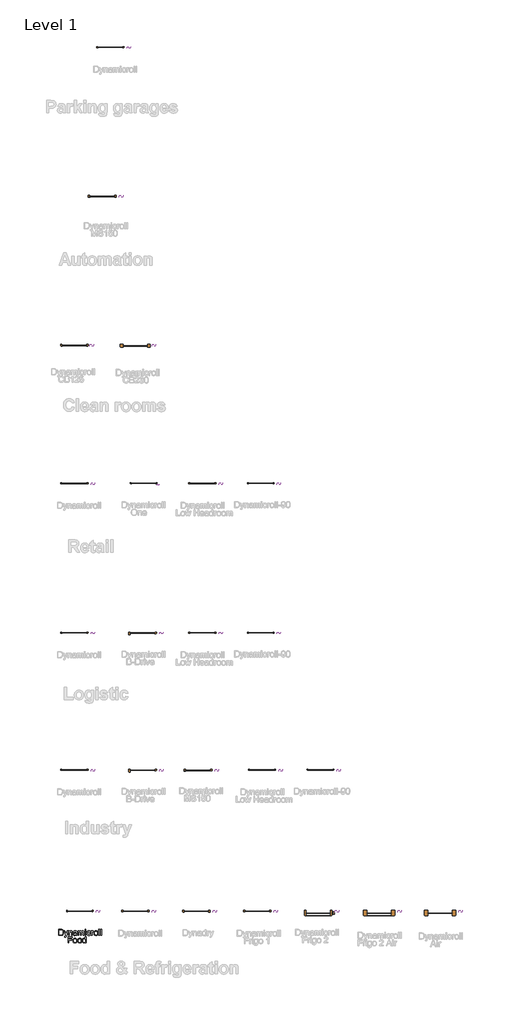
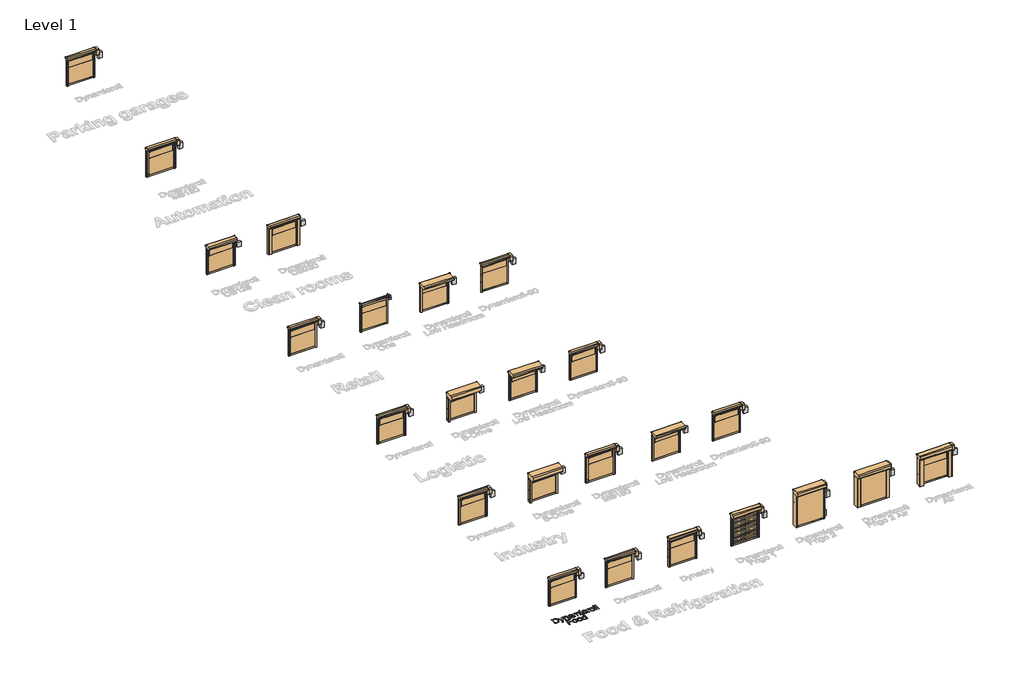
# One storey, part 1 of 17: 24 doors, 24 electric distribution boards, 1 proxy.
"""IFC4 building model written with IfcOpenShell, lengths in millimetres."""

from ifc_helpers import new_model, si_unit, origin, origin_with_axes, place, context, project, spatial, polyline, outline, extrude, transform, mapped, element, save
from components import door_93b81783, door_544569be, door_051ebcf6, door_978dc10a, door_dcf74658, door_a66aba2e, door_ffd00a84, door_aceed0af, door_23fff084, door_8e405e60, door_88b36e2c, door_59a10860, cb125_eadb58d3, cb230_7affb9d1, ee_wpb_control_panel_bmp_sh_control_panel_one_fab0d9c8, ee_wpb_control_panel_bmp_sh_control_panel_pvc_26d0edfe, ee_wpb_control_panel_bmp_sh_control_panel_powder_coated_2337cf2d

model = new_model("IFC4")

# Units and contexts
model_context = context("Model", 3, world=origin())
ifc_project = project(units=[si_unit("LENGTHUNIT", "METRE", prefix="MILLI")], contexts=[model_context])

# Site, building, storey
site = spatial("IfcSite", under=ifc_project)
building = spatial("IfcBuilding", under=site)
storey = spatial("IfcBuildingStorey", under=building, Name="Level 1", Elevation=0.0)

# Proxy
placement = place(None, origin())
element("IfcBuildingElementProxy", 1, Name="500mm", ObjectType="500mm", at=placement, inside=storey, context=model_context, shape_type="SweptSolid", body=[
    extrude(outline(polyline([(202.3822984, 7606.4708973), (202.3822984, 8108.7524481), (375.6547181, 8108.7524481), (427.4341089, 8106.9436949), (465.2952976, 8101.5174355), (505.3331214, 8087.5685765), (539.1169513, 8065.5876273), (557.7333131, 8047.6227232), (573.851143, 8027.3278998), (587.470441, 8004.7031571), (598.5912072, 7979.7484951), (613.3984575, 7923.7691182), (618.3342076, 7860.309474), (614.9926128, 7806.3994333), (604.9678284, 7758.9579843), (589.7007256, 7718.567607), (570.6321755, 7685.810781), (548.6818831, 7659.9517424), (524.7695535, 7640.2547272), (497.3163596, 7625.6467463), (464.7434746, 7615.0548106), (426.9895848, 7608.6168756), (383.9933766, 7606.4708973), (202.3822984, 7606.4708973)]), holes=[polyline([(265.1674922, 7669.2560912), (376.2678547, 7669.2560912), (422.2224473, 7671.5246968), (457.0792663, 7678.3305137), (483.382829, 7689.2750031), (503.6776524, 7703.9596261), (525.489989, 7731.1369085), (541.8760662, 7766.3156242), (552.1307769, 7809.6490576), (555.5490137, 7861.2904927), (553.8743842, 7897.741467), (548.8504957, 7929.7165438), (540.4773482, 7957.2157229), (528.7549417, 7980.2390044), (514.6336381, 7999.3075545), (499.063799, 8014.9425393), (482.0454247, 8027.1439588), (463.5785149, 8035.911813), (427.4647657, 8043.4533939), (374.5510721, 8045.9672542), (265.1674922, 8045.9672542), (265.1674922, 7669.2560912)])]), origin_with_axes(), (0.0, 0.0, 1.0), 5.0),
    extrude(outline(polyline([(696.8156999, 7465.2042112), (688.9675506, 7525.6594857), (720.8506569, 7520.1412558), (737.6199445, 7521.8733669), (750.6490985, 7527.0697), (760.7965102, 7535.3623734), (768.9205709, 7546.3835048), (786.0883974, 7592.6140089), (790.9934906, 7607.819798), (657.5749537, 7975.3339112), (723.7937129, 7975.3339112), (794.5496833, 7770.5462672), (819.1977769, 7688.6312096), (843.8458706, 7760.9813353), (916.5638783, 7975.3339112), (982.2921281, 7975.3339112), (853.9013118, 7597.6417295), (820.5466776, 7515.7266719), (803.4708216, 7489.5763934), (784.1263601, 7471.4582051), (761.6549015, 7460.8815978), (735.1980547, 7457.356062), (717.0185528, 7459.3180993), (696.8156999, 7465.2042112)])), origin_with_axes(), (0.0, 0.0, 1.0), 5.0),
    extrude(outline(polyline([(1034.2861168, 7606.4708973), (1034.2861168, 7975.3339112), (1097.0713106, 7975.3339112), (1097.0713106, 7923.8304318), (1118.8836473, 7949.7967693), (1145.079911, 7968.3441533), (1175.6601018, 7979.4725836), (1210.6242198, 7983.1820604), (1241.5722926, 7980.1930192), (1269.9145347, 7971.2258956), (1293.5509529, 7957.3996639), (1310.3815542, 7939.8332986), (1321.8012244, 7918.572785), (1329.2048496, 7893.6641082), (1332.5157875, 7832.963579), (1332.5157875, 7606.4708973), (1269.7305937, 7606.4708973), (1269.7305937, 7824.5022932), (1267.9218406, 7856.9678792), (1262.4955811, 7880.0524744), (1252.4861252, 7896.5918358), (1236.9277825, 7909.4217204), (1216.9855126, 7917.65308), (1193.8242754, 7920.3968666), (1174.7595574, 7918.8563607), (1157.0514043, 7914.2348431), (1140.699816, 7906.5323139), (1125.7047926, 7895.7487729), (1113.1776442, 7880.6579469), (1104.2296811, 7860.0335625), (1098.8609032, 7833.8756198), (1097.0713106, 7802.1841188), (1097.0713106, 7606.4708973), (1034.2861168, 7606.4708973)])), origin_with_axes(), (0.0, 0.0, 1.0), 5.0),
    extrude(outline(polyline([(1654.289906, 7653.5597927), (1624.292195, 7627.8387099), (1593.4054358, 7611.0081086), (1560.9245213, 7601.7190882), (1526.1443443, 7598.6227481), (1498.1891448, 7600.4851507), (1473.6751748, 7606.0723585), (1452.6024342, 7615.3843715), (1434.9709232, 7628.4211897), (1421.0488889, 7644.3550786), (1411.1045788, 7662.3583038), (1405.1379926, 7682.4308651), (1403.1491306, 7704.5727627), (1406.1535002, 7730.6004139), (1415.1666091, 7754.2368321), (1429.0694829, 7774.4703418), (1446.743147, 7790.2892676), (1467.5131514, 7802.2454324), (1490.7050455, 7810.8906593), (1545.0289534, 7820.3329639), (1609.2243616, 7830.2657777), (1653.922024, 7841.9153743), (1654.289906, 7855.8948901), (1649.9672925, 7883.9152354), (1636.9994522, 7902.2480215), (1623.924313, 7910.1881412), (1607.9980883, 7915.8596553), (1567.5923825, 7920.3968666), (1530.1910463, 7917.3771685), (1504.0714246, 7908.3180744), (1486.2598047, 7891.5641152), (1473.7824737, 7865.4598219), (1410.9972798, 7873.3079712), (1421.8957839, 7907.6436241), (1438.1592338, 7934.621637), (1461.3051427, 7955.2536856), (1492.8510238, 7970.5514452), (1531.432648, 7980.0244066), (1575.6857863, 7983.1820604), (1618.1301715, 7980.3922886), (1651.7760457, 7972.0229732), (1677.1445749, 7959.4383433), (1694.7569255, 7944.0026279), (1706.4371788, 7924.9187494), (1714.0094165, 7901.3896301), (1717.0750998, 7846.4525855), (1717.0750998, 7768.3389752), (1720.2634105, 7659.2619636), (1724.9845627, 7632.2992791), (1732.7713983, 7606.4708973), (1669.9862044, 7606.4708973), (1659.9307632, 7628.2985624), (1654.289906, 7653.5597927)]), holes=[polyline([(1654.289906, 7779.1301804), (1612.1061039, 7768.6762004), (1552.99973, 7759.8776893), (1498.9823904, 7749.6996208), (1484.9262325, 7742.7405197), (1474.5182377, 7733.144931), (1468.0803028, 7721.6486187), (1465.9343245, 7708.9873467), (1470.6094915, 7690.3173354), (1484.6349925, 7675.0195758), (1507.7042593, 7664.8108504), (1539.5107235, 7661.407942), (1573.2332397, 7665.163404), (1603.0316813, 7676.4297901), (1627.1892657, 7693.0304651), (1643.9892101, 7712.7887939), (1651.4388205, 7733.144931), (1653.922024, 7761.3492173), (1654.289906, 7779.1301804)])]), origin_with_axes(), (0.0, 0.0, 1.0), 5.0),
    extrude(outline(polyline([(1803.4047414, 7606.4708973), (1803.4047414, 7975.3339112), (1866.1899352, 7975.3339112), (1866.1899352, 7914.633382), (1885.0745443, 7942.5157715), (1909.354756, 7964.358765), (1938.2028358, 7978.4762365), (1970.7910492, 7983.1820604), (2005.7091819, 7978.384266), (2033.6988703, 7963.990883), (2054.6068304, 7940.952273), (2068.2797779, 7910.218798), (2091.1651037, 7942.1402253), (2117.2693969, 7964.9412448), (2146.5926576, 7978.6218565), (2179.1348858, 7983.1820604), (2204.2696567, 7981.2851689), (2226.3310801, 7975.5944943), (2245.319156, 7966.1100366), (2261.2338844, 7952.8317958), (2273.8146822, 7935.6064878), (2282.8009663, 7914.2808284), (2288.1927368, 7888.8548176), (2289.9899937, 7859.3284554), (2289.9899937, 7606.4708973), (2227.2047998, 7606.4708973), (2227.2047998, 7832.3504424), (2225.7486002, 7863.6663972), (2221.3800016, 7884.7736267), (2213.1946272, 7899.2283234), (2200.2881005, 7910.58668), (2183.6874255, 7917.9443199), (2164.419606, 7920.3968666), (2146.6271466, 7918.8257039), (2130.4058498, 7914.1122158), (2115.7557158, 7906.2564024), (2102.6767444, 7895.2582636), (2091.9200282, 7880.7959026), (2084.2366594, 7862.5474228), (2079.6266382, 7840.5128241), (2078.0899644, 7814.6921066), (2078.0899644, 7606.4708973), (2015.3047706, 7606.4708973), (2015.3047706, 7839.3402003), (2011.6719359, 7874.8408128), (2000.7734318, 7900.1633568), (1992.3466348, 7909.0155173), (1981.5975828, 7915.3384891), (1953.1327134, 7920.3968666), (1928.9444722, 7917.0246149), (1906.6569547, 7906.9078601), (1888.2628549, 7890.2918566), (1875.7548671, 7867.4218593), (1868.5811682, 7835.6920372), (1866.1899352, 7792.4965596), (1866.1899352, 7606.4708973), (1803.4047414, 7606.4708973)])), origin_with_axes(), (0.0, 0.0, 1.0), 5.0),
    extrude(outline(polyline([(2384.1677844, 8045.9672542), (2384.1677844, 8108.7524481), (2446.9529783, 8108.7524481), (2446.9529783, 8045.9672542), (2384.1677844, 8045.9672542)])), origin_with_axes(), (0.0, 0.0, 1.0), 5.0),
    extrude(outline(polyline([(2384.1677844, 7606.4708973), (2384.1677844, 7975.3339112), (2446.9529783, 7975.3339112), (2446.9529783, 7606.4708973), (2384.1677844, 7606.4708973)])), origin_with_axes(), (0.0, 0.0, 1.0), 5.0),
    extrude(outline(polyline([(2776.5752459, 7739.8894343), (2839.3604398, 7732.041285), (2832.5316302, 7702.4152881), (2821.8553882, 7676.1998638), (2807.3317136, 7653.3950122), (2788.9606064, 7634.0007333), (2767.5161518, 7618.5228648), (2743.7724347, 7607.4672444), (2717.7294551, 7600.8338722), (2689.3872131, 7598.6227481), (2654.1740084, 7601.7075919), (2622.6013025, 7610.9621234), (2594.6690956, 7626.3863424), (2570.3773876, 7647.9802491), (2550.7148614, 7675.3376404), (2536.6701998, 7708.0523133), (2528.2434029, 7746.1242677), (2525.4344706, 7789.5535036), (2530.2322649, 7845.4255816), (2544.625648, 7893.8480492), (2555.4781668, 7914.7981624), (2568.844546, 7932.9508396), (2584.7247855, 7948.3060808), (2603.1188852, 7960.863886), (2644.1223993, 7977.6025168), (2688.5288218, 7983.1820604), (2716.3843866, 7981.2660083), (2741.5804711, 7975.5178522), (2764.1170755, 7965.9375919), (2783.9941995, 7952.5252275), (2800.8746181, 7935.5873273), (2814.4211062, 7915.4304596), (2824.6336637, 7892.0546245), (2831.5122906, 7865.4598219), (2768.7270967, 7857.6116727), (2757.3380833, 7885.0035529), (2739.6031054, 7904.6392544), (2716.5031818, 7916.4574635), (2689.0193311, 7920.3968666), (2667.6860075, 7918.4578219), (2648.4450127, 7912.6406878), (2631.2963468, 7902.9454644), (2616.2400097, 7889.3721516), (2603.9811086, 7871.6065169), (2595.2247507, 7849.3343278), (2589.970936, 7822.5555843), (2588.2196644, 7791.2702863), (2589.9326149, 7759.5136394), (2595.0714666, 7732.4244954), (2603.6362193, 7710.0028543), (2615.626873, 7692.2487159), (2630.384306, 7678.7558773), (2647.2493962, 7669.1181354), (2666.2221437, 7663.3354903), (2687.3025484, 7661.407942), (2719.8141198, 7666.2210647), (2746.470236, 7680.660433), (2757.2499449, 7691.5819298), (2765.8606828, 7705.0939289), (2776.5752459, 7739.8894343)])), origin_with_axes(), (0.0, 0.0, 1.0), 5.0),
    extrude(outline(polyline([(2894.2974844, 7606.4708973), (2894.2974844, 7975.3339112), (2949.234529, 7975.3339112), (2949.234529, 7920.7647486), (2969.5293524, 7952.4026001), (2988.2300205, 7971.0419546), (3006.9920023, 7980.1470339), (3027.4707666, 7983.1820604), (3058.7407362, 7978.3382808), (3090.5012152, 7963.806942), (3069.5319414, 7907.5209967), (3047.4590217, 7917.1778991), (3025.386102, 7920.3968666), (3006.6394487, 7917.3005264), (2989.8854895, 7908.0115061), (2976.3504977, 7893.2349126), (2967.2607468, 7873.6758532), (2959.6271954, 7838.6044363), (2957.0826782, 7800.3447088), (2957.0826782, 7606.4708973), (2894.2974844, 7606.4708973)])), origin_with_axes(), (0.0, 0.0, 1.0), 5.0),
    extrude(outline(polyline([(3114.0456628, 7790.9024043), (3117.4409071, 7838.6734142), (3127.6266398, 7879.8378766), (3144.6028611, 7914.3957915), (3168.3695708, 7942.3471589), (3192.2972289, 7960.2124283), (3218.7080905, 7972.973335), (3247.6021555, 7980.6298791), (3278.979424, 7983.1820604), (3313.6178131, 7980.074224), (3344.9376001, 7970.7507146), (3372.9387848, 7955.2115325), (3397.6213675, 7933.4566774), (3417.7667388, 7906.2219134), (3432.1562898, 7874.2430046), (3440.7900203, 7837.5199508), (3443.6679305, 7796.0527522), (3438.5788963, 7732.6237649), (3432.2176034, 7706.5884495), (3423.3117935, 7684.339253), (3411.9725974, 7665.1212508), (3398.3111462, 7648.1795185), (3382.3274399, 7633.5140561), (3364.0214786, 7621.1248635), (3323.293876, 7604.248277), (3278.979424, 7598.6227481), (3243.8351972, 7601.7190882), (3212.2241703, 7611.0081086), (3184.1463434, 7626.4898092), (3159.6017166, 7648.1641901), (3139.6709431, 7675.6633693), (3125.4346763, 7708.6194647), (3116.8929162, 7747.0324763), (3114.0456628, 7790.9024043)]), holes=[polyline([(3176.8308567, 7791.0250316), (3178.647274, 7760.5713002), (3184.0965261, 7734.2025918), (3193.1786129, 7711.9189063), (3205.8935343, 7693.7202439), (3221.3599065, 7679.5836118), (3238.6963455, 7669.4860174), (3257.9028514, 7663.4274608), (3278.979424, 7661.407942), (3299.9486977, 7663.4389571), (3319.0785615, 7669.5320027), (3336.3690153, 7679.6870786), (3351.8200591, 7693.9041849), (3364.5349805, 7712.2829562), (3373.6170673, 7734.9230273), (3379.0663193, 7761.8243982), (3380.8827367, 7792.9870689), (3379.054823, 7822.4751101), (3373.571082, 7848.1540398), (3364.4315137, 7870.0238579), (3351.6361181, 7888.0845646), (3336.1275927, 7902.2211967), (3318.8486352, 7912.3187911), (3299.7992457, 7918.3773477), (3278.979424, 7920.3968666), (3257.9028514, 7918.3850119), (3238.6963455, 7912.3494479), (3221.3599065, 7902.2901746), (3205.8935343, 7888.207192), (3193.1786129, 7870.062179), (3184.0965261, 7847.8168146), (3178.647274, 7821.4710988), (3176.8308567, 7791.0250316)])]), origin_with_axes(), (0.0, 0.0, 1.0), 5.0),
    extrude(outline(polyline([(3514.3012736, 7606.4708973), (3514.3012736, 8108.7524481), (3577.0864674, 8108.7524481), (3577.0864674, 7606.4708973), (3514.3012736, 7606.4708973)])), origin_with_axes(), (0.0, 0.0, 1.0), 5.0),
    extrude(outline(polyline([(3671.2642582, 7606.4708973), (3671.2642582, 8108.7524481), (3734.0494521, 8108.7524481), (3734.0494521, 7606.4708973), (3671.2642582, 7606.4708973)])), origin_with_axes(), (0.0, 0.0, 1.0), 5.0),
    extrude(outline(polyline([(987.1972214, 6996.5968081), (987.1972214, 7498.8783589), (1324.6676383, 7498.8783589), (1324.6676383, 7436.093165), (1049.9824152, 7436.093165), (1049.9824152, 7286.9783296), (1285.4268922, 7286.9783296), (1285.4268922, 7224.1931358), (1049.9824152, 7224.1931358), (1049.9824152, 6996.5968081), (987.1972214, 6996.5968081)])), origin_with_axes(), (0.0, 0.0, 1.0), 5.0),
    extrude(outline(polyline([(1387.4528322, 7181.028315), (1390.8480764, 7228.7993249), (1401.0338091, 7269.9637874), (1418.0100304, 7304.5217023), (1441.7767401, 7332.4730697), (1465.7043982, 7350.3383391), (1492.1152598, 7363.0992458), (1521.0093248, 7370.7557898), (1552.3865933, 7373.3079712), (1587.0249824, 7370.2001347), (1618.3447694, 7360.8766254), (1646.3459542, 7345.3374432), (1671.0285368, 7323.5825882), (1691.1739081, 7296.3478242), (1705.5634591, 7264.3689154), (1714.1971896, 7227.6458616), (1717.0750998, 7186.178663), (1711.9860656, 7122.7496756), (1705.6247727, 7096.7143603), (1696.7189628, 7074.4651638), (1685.3797667, 7055.2471616), (1671.7183155, 7038.3054293), (1655.7346092, 7023.6399669), (1637.4286479, 7011.2507743), (1596.7010453, 6994.3741877), (1552.3865933, 6988.7486589), (1517.2423665, 6991.844999), (1485.6313396, 7001.1340194), (1457.5535128, 7016.61572), (1433.0088859, 7038.2901009), (1413.0781124, 7065.78928), (1398.8418456, 7098.7453754), (1390.3000855, 7137.1583871), (1387.4528322, 7181.028315)]), holes=[polyline([(1450.238026, 7181.1509424), (1452.0544433, 7150.6972109), (1457.5036954, 7124.3285025), (1466.5857822, 7102.0448171), (1479.3007036, 7083.8461546), (1494.7670758, 7069.7095226), (1512.1035148, 7059.6119282), (1531.3100207, 7053.5533716), (1552.3865933, 7051.5338527), (1573.355867, 7053.5648679), (1592.4857308, 7059.6579135), (1609.7761846, 7069.8129894), (1625.2272284, 7084.0300956), (1637.9421498, 7102.408867), (1647.0242366, 7125.0489381), (1652.4734886, 7151.950309), (1654.289906, 7183.1129797), (1652.4619923, 7212.6010208), (1646.9782513, 7238.2799505), (1637.838683, 7260.1497687), (1625.0432874, 7278.2104754), (1609.534762, 7292.3471075), (1592.2558045, 7302.4447019), (1573.206415, 7308.5032585), (1552.3865933, 7310.5227773), (1531.3100207, 7308.5109227), (1512.1035148, 7302.4753587), (1494.7670758, 7292.4160854), (1479.3007036, 7278.3331028), (1466.5857822, 7260.1880898), (1457.5036954, 7237.9427254), (1452.0544433, 7211.5970096), (1450.238026, 7181.1509424)])]), origin_with_axes(), (0.0, 0.0, 1.0), 5.0),
    extrude(outline(polyline([(1772.0121444, 7181.028315), (1775.4073887, 7228.7993249), (1785.5931214, 7269.9637874), (1802.5693427, 7304.5217023), (1826.3360524, 7332.4730697), (1850.2637105, 7350.3383391), (1876.6745721, 7363.0992458), (1905.5686371, 7370.7557898), (1936.9459056, 7373.3079712), (1971.5842947, 7370.2001347), (2002.9040817, 7360.8766254), (2030.9052664, 7345.3374432), (2055.5878491, 7323.5825882), (2075.7332204, 7296.3478242), (2090.1227714, 7264.3689154), (2098.7565019, 7227.6458616), (2101.6344121, 7186.178663), (2096.5453779, 7122.7496756), (2090.184085, 7096.7143603), (2081.2782751, 7074.4651638), (2069.939079, 7055.2471616), (2056.2776278, 7038.3054293), (2040.2939215, 7023.6399669), (2021.9879602, 7011.2507743), (1981.2603576, 6994.3741877), (1936.9459056, 6988.7486589), (1901.8016788, 6991.844999), (1870.1906519, 7001.1340194), (1842.112825, 7016.61572), (1817.5681982, 7038.2901009), (1797.6374247, 7065.78928), (1783.4011579, 7098.7453754), (1774.8593978, 7137.1583871), (1772.0121444, 7181.028315)]), holes=[polyline([(1834.7973383, 7181.1509424), (1836.6137556, 7150.6972109), (1842.0630077, 7124.3285025), (1851.1450944, 7102.0448171), (1863.8600159, 7083.8461546), (1879.3263881, 7069.7095226), (1896.6628271, 7059.6119282), (1915.869333, 7053.5533716), (1936.9459056, 7051.5338527), (1957.9151793, 7053.5648679), (1977.0450431, 7059.6579135), (1994.3354969, 7069.8129894), (2009.7865407, 7084.0300956), (2022.5014621, 7102.408867), (2031.5835489, 7125.0489381), (2037.0328009, 7151.950309), (2038.8492183, 7183.1129797), (2037.0213046, 7212.6010208), (2031.5375636, 7238.2799505), (2022.3979953, 7260.1497687), (2009.6025997, 7278.2104754), (1994.0940743, 7292.3471075), (1976.8151168, 7302.4447019), (1957.7657273, 7308.5032585), (1936.9459056, 7310.5227773), (1915.869333, 7308.5109227), (1896.6628271, 7302.4753587), (1879.3263881, 7292.4160854), (1863.8600159, 7278.3331028), (1851.1450944, 7260.1880898), (1842.0630077, 7237.9427254), (1836.6137556, 7211.5970096), (1834.7973383, 7181.1509424)])]), origin_with_axes(), (0.0, 0.0, 1.0), 5.0),
    extrude(outline(polyline([(2399.8640829, 6996.5968081), (2399.8640829, 7055.8258093), (2381.0791085, 7026.479556), (2358.3240743, 7005.5179465), (2331.5989801, 6992.9409808), (2300.9038262, 6988.7486589), (2260.3141794, 6994.8187118), (2223.1580979, 7013.0288706), (2191.7041873, 7042.1068766), (2168.2210532, 7080.7804713), (2153.5977439, 7127.4861563), (2148.7233075, 7180.660433), (2153.2145335, 7233.1755878), (2166.6882116, 7280.6017084), (2176.7896381, 7301.7319305), (2189.1290133, 7320.2409934), (2203.7063374, 7336.128897), (2220.5216102, 7349.3956415), (2258.4900978, 7367.3298888), (2300.6585715, 7373.3079712), (2331.3767181, 7369.031343), (2358.5386721, 7356.2014584), (2381.5619536, 7336.5351001), (2399.8640829, 7311.7490507), (2399.8640829, 7498.8783589), (2462.6492767, 7498.8783589), (2462.6492767, 6996.5968081), (2399.8640829, 6996.5968081)]), holes=[polyline([(2211.5085013, 7180.9056877), (2213.2789334, 7150.4596205), (2218.5902298, 7124.1139047), (2227.4423903, 7101.8685403), (2239.835415, 7083.7235273), (2254.6350011, 7069.6405447), (2270.7068457, 7059.5812714), (2288.050949, 7053.5457074), (2306.6673108, 7051.5338527), (2325.371811, 7053.4537369), (2342.6124474, 7059.2133894), (2358.38922, 7068.8128102), (2372.7021289, 7082.2519993), (2384.5854838, 7099.6382557), (2393.0735944, 7121.0788782), (2398.1664608, 7146.5738669), (2399.8640829, 7176.1232218), (2398.1358039, 7208.51983), (2392.9509671, 7236.3025848), (2384.3095723, 7259.4714863), (2372.2116196, 7278.0265344), (2357.5844782, 7292.2436407), (2341.3555172, 7302.3987166), (2323.5247368, 7308.4917622), (2304.0921368, 7310.5227773), (2285.107893, 7308.5722363), (2267.7637898, 7302.7206134), (2252.0598271, 7292.9679084), (2237.996005, 7279.3141214), (2226.4077222, 7261.4603483), (2218.1303773, 7239.107685), (2213.1639703, 7212.2561315), (2211.5085013, 7180.9056877)])]), origin_with_axes(), (0.0, 0.0, 1.0), 5.0),
])

# Doors
door_shape = door_93b81783(model_context)
element("IfcDoor", 2, ObjectType="DO_WPB_Dynamicroll_BMP : Dynamicroll", at=placement, inside=storey, context=model_context, shape_type="MappedRepresentation", body=[
    mapped(door_shape, transform((6497.2684086, 9654.9840976, 0.0), x_axis=(1.0, 0.0, 0.0), y_axis=(0.0, 1.0, 0.0), z_axis=(0.0, 0.0, 1.0))),
])
element("IfcDoor", 3, ObjectType="DO_WPB_Dynamicroll_BMP : Dynamicroll", at=placement, inside=storey, context=model_context, shape_type="MappedRepresentation", body=[
    mapped(door_shape, transform((1488.8652486, 32462.1380074, 0.0), x_axis=(1.0, 0.0, 0.0), y_axis=(0.0, 1.0, 0.0), z_axis=(0.0, 0.0, 1.0))),
])
element("IfcDoor", 4, ObjectType="DO_WPB_Dynamicroll_BMP : Dynamicroll", at=placement, inside=storey, context=model_context, shape_type="MappedRepresentation", body=[
    mapped(door_shape, transform((1488.8652486, 21224.4832479, 0.0), x_axis=(1.0, 0.0, 0.0), y_axis=(0.0, 1.0, 0.0), z_axis=(0.0, 0.0, 1.0))),
])
element("IfcDoor", 5, ObjectType="DO_WPB_Dynamicroll_BMP : Dynamicroll", at=placement, inside=storey, context=model_context, shape_type="MappedRepresentation", body=[
    mapped(door_shape, transform((1488.8652486, 44698.8509751, 0.0), x_axis=(1.0, 0.0, 0.0), y_axis=(0.0, 1.0, 0.0), z_axis=(0.0, 0.0, 1.0))),
])
element("IfcDoor", 6, ObjectType="DO_WPB_Dynamicroll_BMP : Dynamicroll", at=placement, inside=storey, context=model_context, shape_type="MappedRepresentation", body=[
    mapped(door_shape, transform((4445.6536388, 80429.8524972, 0.0), x_axis=(1.0, 0.0, 0.0), y_axis=(0.0, 1.0, 0.0), z_axis=(0.0, 0.0, 1.0))),
])
door_2_shape = door_544569be(model_context)
element("IfcDoor", 7, ObjectType="DO_WPB_Dynamicroll_BMP : Dynamicroll-90", at=placement, inside=storey, context=model_context, shape_type="MappedRepresentation", body=[
    mapped(door_2_shape, transform((16781.7584674, 32462.1380074, 0.0), x_axis=(1.0, 0.0, 0.0), y_axis=(0.0, 1.0, 0.0), z_axis=(0.0, 0.0, 1.0))),
])
element("IfcDoor", 8, ObjectType="DO_WPB_Dynamicroll_BMP : Dynamicroll-90", at=placement, inside=storey, context=model_context, shape_type="MappedRepresentation", body=[
    mapped(door_2_shape, transform((21681.7584674, 21224.4832479, 0.0), x_axis=(1.0, 0.0, 0.0), y_axis=(0.0, 1.0, 0.0), z_axis=(0.0, 0.0, 1.0))),
])
element("IfcDoor", 9, ObjectType="DO_WPB_Dynamicroll_BMP : Dynamicroll-90", at=placement, inside=storey, context=model_context, shape_type="MappedRepresentation", body=[
    mapped(door_2_shape, transform((16781.7584674, 44698.8509751, 0.0), x_axis=(1.0, 0.0, 0.0), y_axis=(0.0, 1.0, 0.0), z_axis=(0.0, 0.0, 1.0))),
])
door_3_shape = door_051ebcf6(model_context)
element("IfcDoor", 10, ObjectType="DO_WPB_Dynamicroll_BMP : Dynamicroll MS150", at=placement, inside=storey, context=model_context, shape_type="MappedRepresentation", body=[
    mapped(door_3_shape, transform((11635.9345844, 21224.4832479, 0.0), x_axis=(1.0, 0.0, 0.0), y_axis=(0.0, 1.0, 0.0), z_axis=(0.0, 0.0, 1.0))),
])
element("IfcDoor", 11, ObjectType="DO_WPB_Dynamicroll_BMP : Dynamicroll MS150", at=placement, inside=storey, context=model_context, shape_type="MappedRepresentation", body=[
    mapped(door_3_shape, transform((3788.8652486, 68233.2125546, 0.0), x_axis=(1.0, 0.0, 0.0), y_axis=(0.0, 1.0, 0.0), z_axis=(0.0, 0.0, 1.0))),
])
door_4_shape = door_978dc10a(model_context)
element("IfcDoor", 12, ObjectType="DO_WPB_Dynamicroll_BMP : Dynamicroll Food Inox", at=placement, inside=storey, context=model_context, shape_type="MappedRepresentation", body=[
    mapped(door_4_shape, transform((1948.7786866, 9654.9840976, 0.0), x_axis=(1.0, 0.0, 0.0), y_axis=(0.0, 1.0, 0.0), z_axis=(0.0, 0.0, 1.0))),
])
door_5_shape = door_dcf74658(model_context)
element("IfcDoor", 13, ObjectType="DO_WPB_Dynadry_BMP : Dynadry", at=placement, inside=storey, context=model_context, shape_type="MappedRepresentation", body=[
    mapped(door_5_shape, transform((11497.2684086, 9654.9840976, 0.0), x_axis=(1.0, 0.0, 0.0), y_axis=(0.0, 1.0, 0.0), z_axis=(0.0, 0.0, 1.0))),
])
door_6_shape = door_a66aba2e(model_context)
element("IfcDoor", 14, ObjectType="DO_WPB_Dynamicroll Frigo_Air_BMP : Dynamicroll Frigo1", at=placement, inside=storey, context=model_context, shape_type="MappedRepresentation", body=[
    mapped(door_6_shape, transform((16497.2684086, 9654.9840976, 0.0), x_axis=(1.0, 0.0, 0.0), y_axis=(0.0, 1.0, 0.0), z_axis=(0.0, 0.0, 1.0))),
])
door_7_shape = door_ffd00a84(model_context)
element("IfcDoor", 15, ObjectType="DO_WPB_Dynamicroll Frigo_Air_BMP : Dynamicroll Frigo2", at=placement, inside=storey, context=model_context, shape_type="MappedRepresentation", body=[
    mapped(door_7_shape, transform((21497.2684086, 9654.9840976, 0.0), x_axis=(1.0, 0.0, 0.0), y_axis=(0.0, 1.0, 0.0), z_axis=(0.0, 0.0, 1.0))),
])
door_8_shape = door_aceed0af(model_context)
element("IfcDoor", 16, ObjectType="DO_WPB_Dynamicroll Frigo_Air_BMP : Dynamicroll Frigo2 Air", at=placement, inside=storey, context=model_context, shape_type="MappedRepresentation", body=[
    mapped(door_8_shape, transform((26497.2684086, 9654.9840976, 0.0), x_axis=(1.0, 0.0, 0.0), y_axis=(0.0, 1.0, 0.0), z_axis=(0.0, 0.0, 1.0))),
])
door_9_shape = door_23fff084(model_context)
element("IfcDoor", 17, ObjectType="DO_WPB_Dynamicroll Frigo_Air_BMP : Dynamicroll Air", at=placement, inside=storey, context=model_context, shape_type="MappedRepresentation", body=[
    mapped(door_9_shape, transform((31497.2684086, 9654.9840976, 0.0), x_axis=(1.0, 0.0, 0.0), y_axis=(0.0, 1.0, 0.0), z_axis=(0.0, 0.0, 1.0))),
])
door_10_shape = door_8e405e60(model_context)
element("IfcDoor", 18, ObjectType="DO_WPB_Dynamicroll_BMP : Dynamicroll B-Drive", at=placement, inside=storey, context=model_context, shape_type="MappedRepresentation", body=[
    mapped(door_10_shape, transform((7088.8652486, 32462.1380074, 0.0), x_axis=(1.0, 0.0, 0.0), y_axis=(0.0, 1.0, 0.0), z_axis=(0.0, 0.0, 1.0))),
])
element("IfcDoor", 19, ObjectType="DO_WPB_Dynamicroll_BMP : Dynamicroll B-Drive", at=placement, inside=storey, context=model_context, shape_type="MappedRepresentation", body=[
    mapped(door_10_shape, transform((7088.8652486, 21224.4832479, 0.0), x_axis=(1.0, 0.0, 0.0), y_axis=(0.0, 1.0, 0.0), z_axis=(0.0, 0.0, 1.0))),
])
door_11_shape = door_88b36e2c(model_context)
element("IfcDoor", 20, ObjectType="DO_WPB_Dynamicroll_BMP : Dynamicroll Low Headroom", at=placement, inside=storey, context=model_context, shape_type="MappedRepresentation", body=[
    mapped(door_11_shape, transform((11988.8652486, 32462.1380074, 0.0), x_axis=(1.0, 0.0, 0.0), y_axis=(0.0, 1.0, 0.0), z_axis=(0.0, 0.0, 1.0))),
])
element("IfcDoor", 21, ObjectType="DO_WPB_Dynamicroll_BMP : Dynamicroll Low Headroom", at=placement, inside=storey, context=model_context, shape_type="MappedRepresentation", body=[
    mapped(door_11_shape, transform((16888.8652486, 21224.4832479, 0.0), x_axis=(1.0, 0.0, 0.0), y_axis=(0.0, 1.0, 0.0), z_axis=(0.0, 0.0, 1.0))),
])
element("IfcDoor", 22, ObjectType="DO_WPB_Dynamicroll_BMP : Dynamicroll Low Headroom", at=placement, inside=storey, context=model_context, shape_type="MappedRepresentation", body=[
    mapped(door_11_shape, transform((11988.8652486, 44698.8509751, 0.0), x_axis=(1.0, 0.0, 0.0), y_axis=(0.0, 1.0, 0.0), z_axis=(0.0, 0.0, 1.0))),
])
door_12_shape = door_59a10860(model_context)
element("IfcDoor", 23, ObjectType="DO_WPB_Dynamicroll_BMP : Dynamicroll One", at=placement, inside=storey, context=model_context, shape_type="MappedRepresentation", body=[
    mapped(door_12_shape, transform((7181.7584674, 44698.8509751, 0.0), x_axis=(1.0, 0.0, 0.0), y_axis=(0.0, 1.0, 0.0), z_axis=(0.0, 0.0, 1.0))),
])
cb125_shape = cb125_eadb58d3(model_context)
element("IfcDoor", 24, ObjectType="DO_WPB_Dynamicroll Cleanroom_BMP : CB125", at=placement, inside=storey, context=model_context, shape_type="MappedRepresentation", body=[
    mapped(cb125_shape, transform((1497.2684086, 56020.8553836, 0.0), x_axis=(1.0, 0.0, 0.0), y_axis=(0.0, 1.0, 0.0), z_axis=(0.0, 0.0, 1.0))),
])
cb230_shape = cb230_7affb9d1(model_context)
element("IfcDoor", 25, ObjectType="DO_WPB_Dynamicroll Cleanroom_BMP : CB230", at=placement, inside=storey, context=model_context, shape_type="MappedRepresentation", body=[
    mapped(cb230_shape, transform((6497.2684086, 56020.8553836, 0.0), x_axis=(1.0, 0.0, 0.0), y_axis=(0.0, 1.0, 0.0), z_axis=(0.0, 0.0, 1.0))),
])

# Electric distribution boards
ee_wpb_control_panel_bmp_sh_control_panel_one_shape = ee_wpb_control_panel_bmp_sh_control_panel_one_fab0d9c8(model_context)
element("IfcElectricDistributionBoard", 26, ObjectType="EE_WPB_control panel_BMP_SH : Control panel One", at=placement, inside=storey, context=model_context, shape_type="MappedRepresentation", body=[
    mapped(ee_wpb_control_panel_bmp_sh_control_panel_one_shape, transform((8371.7584674, 44573.8509751, 2050.0), x_axis=(1.0, 0.0, 0.0), y_axis=(0.0, 1.0, 0.0), z_axis=(0.0, 0.0, 1.0))),
])
ee_wpb_control_panel_bmp_sh_control_panel_pvc_shape = ee_wpb_control_panel_bmp_sh_control_panel_pvc_26d0edfe(model_context)
element("IfcElectricDistributionBoard", 27, ObjectType="EE_WPB_control panel_BMP_SH : Control panel PVC", at=placement, inside=storey, context=model_context, shape_type="MappedRepresentation", body=[
    mapped(ee_wpb_control_panel_bmp_sh_control_panel_pvc_shape, transform((2922.2684086, 56020.8553836, 1500.0), x_axis=(1.0, 0.0, 0.0), y_axis=(0.0, 1.0, 0.0), z_axis=(0.0, 0.0, 1.0))),
])
element("IfcElectricDistributionBoard", 28, ObjectType="EE_WPB_control panel_BMP_SH : Control panel PVC", at=placement, inside=storey, context=model_context, shape_type="MappedRepresentation", body=[
    mapped(ee_wpb_control_panel_bmp_sh_control_panel_pvc_shape, transform((8027.2684086, 56020.8553836, 1500.0), x_axis=(1.0, 0.0, 0.0), y_axis=(0.0, 1.0, 0.0), z_axis=(0.0, 0.0, 1.0))),
])
element("IfcElectricDistributionBoard", 29, ObjectType="EE_WPB_control panel_BMP_SH : Control panel PVC", at=placement, inside=storey, context=model_context, shape_type="MappedRepresentation", body=[
    mapped(ee_wpb_control_panel_bmp_sh_control_panel_pvc_shape, transform((13022.2684086, 9654.9840976, 1500.0), x_axis=(1.0, 0.0, 0.0), y_axis=(0.0, 1.0, 0.0), z_axis=(0.0, 0.0, 1.0))),
])
element("IfcElectricDistributionBoard", 30, ObjectType="EE_WPB_control panel_BMP_SH : Control panel PVC", at=placement, inside=storey, context=model_context, shape_type="MappedRepresentation", body=[
    mapped(ee_wpb_control_panel_bmp_sh_control_panel_pvc_shape, transform((3438.7786866, 9654.9840976, 1500.0), x_axis=(1.0, 0.0, 0.0), y_axis=(0.0, 1.0, 0.0), z_axis=(0.0, 0.0, 1.0))),
])
ee_wpb_control_panel_bmp_sh_control_panel_powder_coated_shape = ee_wpb_control_panel_bmp_sh_control_panel_powder_coated_2337cf2d(model_context)
element("IfcElectricDistributionBoard", 31, ObjectType="EE_WPB_control panel_BMP_SH : Control panel Powder coated steel", at=placement, inside=storey, context=model_context, shape_type="MappedRepresentation", body=[
    mapped(ee_wpb_control_panel_bmp_sh_control_panel_powder_coated_shape, transform((18022.2684086, 9654.9840976, 1500.0), x_axis=(1.0, 0.0, 0.0), y_axis=(0.0, 1.0, 0.0), z_axis=(0.0, 0.0, 1.0))),
])
element("IfcElectricDistributionBoard", 32, ObjectType="EE_WPB_control panel_BMP_SH : Control panel Powder coated steel", at=placement, inside=storey, context=model_context, shape_type="MappedRepresentation", body=[
    mapped(ee_wpb_control_panel_bmp_sh_control_panel_powder_coated_shape, transform((23032.2684086, 9654.9840976, 1500.0), x_axis=(1.0, 0.0, 0.0), y_axis=(0.0, 1.0, 0.0), z_axis=(0.0, 0.0, 1.0))),
])
element("IfcElectricDistributionBoard", 33, ObjectType="EE_WPB_control panel_BMP_SH : Control panel Powder coated steel", at=placement, inside=storey, context=model_context, shape_type="MappedRepresentation", body=[
    mapped(ee_wpb_control_panel_bmp_sh_control_panel_powder_coated_shape, transform((28177.2684086, 9654.9840976, 1500.0), x_axis=(1.0, 0.0, 0.0), y_axis=(0.0, 1.0, 0.0), z_axis=(0.0, 0.0, 1.0))),
])
element("IfcElectricDistributionBoard", 34, ObjectType="EE_WPB_control panel_BMP_SH : Control panel Powder coated steel", at=placement, inside=storey, context=model_context, shape_type="MappedRepresentation", body=[
    mapped(ee_wpb_control_panel_bmp_sh_control_panel_powder_coated_shape, transform((33177.2684086, 9654.9840976, 1500.0), x_axis=(1.0, 0.0, 0.0), y_axis=(0.0, 1.0, 0.0), z_axis=(0.0, 0.0, 1.0))),
])
element("IfcElectricDistributionBoard", 35, ObjectType="EE_WPB_control panel_BMP_SH : Control panel Powder coated steel", at=placement, inside=storey, context=model_context, shape_type="MappedRepresentation", body=[
    mapped(ee_wpb_control_panel_bmp_sh_control_panel_powder_coated_shape, transform((8022.2684086, 9654.9840976, 1500.0), x_axis=(1.0, 0.0, 0.0), y_axis=(0.0, 1.0, 0.0), z_axis=(0.0, 0.0, 1.0))),
])
element("IfcElectricDistributionBoard", 36, ObjectType="EE_WPB_control panel_BMP_SH : Control panel Powder coated steel", at=placement, inside=storey, context=model_context, shape_type="MappedRepresentation", body=[
    mapped(ee_wpb_control_panel_bmp_sh_control_panel_powder_coated_shape, transform((3013.8652486, 32462.1380074, 1500.0), x_axis=(1.0, 0.0, 0.0), y_axis=(0.0, 1.0, 0.0), z_axis=(0.0, 0.0, 1.0))),
])
element("IfcElectricDistributionBoard", 37, ObjectType="EE_WPB_control panel_BMP_SH : Control panel Powder coated steel", at=placement, inside=storey, context=model_context, shape_type="MappedRepresentation", body=[
    mapped(ee_wpb_control_panel_bmp_sh_control_panel_powder_coated_shape, transform((8628.8652486, 32462.1380074, 1500.0), x_axis=(1.0, 0.0, 0.0), y_axis=(0.0, 1.0, 0.0), z_axis=(0.0, 0.0, 1.0))),
])
element("IfcElectricDistributionBoard", 38, ObjectType="EE_WPB_control panel_BMP_SH : Control panel Powder coated steel", at=placement, inside=storey, context=model_context, shape_type="MappedRepresentation", body=[
    mapped(ee_wpb_control_panel_bmp_sh_control_panel_powder_coated_shape, transform((13513.8652486, 32462.1380074, 1500.0), x_axis=(1.0, 0.0, 0.0), y_axis=(0.0, 1.0, 0.0), z_axis=(0.0, 0.0, 1.0))),
])
element("IfcElectricDistributionBoard", 39, ObjectType="EE_WPB_control panel_BMP_SH : Control panel Powder coated steel", at=placement, inside=storey, context=model_context, shape_type="MappedRepresentation", body=[
    mapped(ee_wpb_control_panel_bmp_sh_control_panel_powder_coated_shape, transform((18271.7584674, 32462.1380074, 1500.0), x_axis=(1.0, 0.0, 0.0), y_axis=(0.0, 1.0, 0.0), z_axis=(0.0, 0.0, 1.0))),
])
element("IfcElectricDistributionBoard", 40, ObjectType="EE_WPB_control panel_BMP_SH : Control panel Powder coated steel", at=placement, inside=storey, context=model_context, shape_type="MappedRepresentation", body=[
    mapped(ee_wpb_control_panel_bmp_sh_control_panel_powder_coated_shape, transform((3013.8652486, 21224.4832479, 1500.0), x_axis=(1.0, 0.0, 0.0), y_axis=(0.0, 1.0, 0.0), z_axis=(0.0, 0.0, 1.0))),
])
element("IfcElectricDistributionBoard", 41, ObjectType="EE_WPB_control panel_BMP_SH : Control panel Powder coated steel", at=placement, inside=storey, context=model_context, shape_type="MappedRepresentation", body=[
    mapped(ee_wpb_control_panel_bmp_sh_control_panel_powder_coated_shape, transform((8628.8652486, 21224.4832479, 1500.0), x_axis=(1.0, 0.0, 0.0), y_axis=(0.0, 1.0, 0.0), z_axis=(0.0, 0.0, 1.0))),
])
element("IfcElectricDistributionBoard", 42, ObjectType="EE_WPB_control panel_BMP_SH : Control panel Powder coated steel", at=placement, inside=storey, context=model_context, shape_type="MappedRepresentation", body=[
    mapped(ee_wpb_control_panel_bmp_sh_control_panel_powder_coated_shape, transform((18413.8652486, 21224.4832479, 1500.0), x_axis=(1.0, 0.0, 0.0), y_axis=(0.0, 1.0, 0.0), z_axis=(0.0, 0.0, 1.0))),
])
element("IfcElectricDistributionBoard", 43, ObjectType="EE_WPB_control panel_BMP_SH : Control panel Powder coated steel", at=placement, inside=storey, context=model_context, shape_type="MappedRepresentation", body=[
    mapped(ee_wpb_control_panel_bmp_sh_control_panel_powder_coated_shape, transform((23171.7584674, 21224.4832479, 1500.0), x_axis=(1.0, 0.0, 0.0), y_axis=(0.0, 1.0, 0.0), z_axis=(0.0, 0.0, 1.0))),
])
element("IfcElectricDistributionBoard", 44, ObjectType="EE_WPB_control panel_BMP_SH : Control panel Powder coated steel", at=placement, inside=storey, context=model_context, shape_type="MappedRepresentation", body=[
    mapped(ee_wpb_control_panel_bmp_sh_control_panel_powder_coated_shape, transform((13185.9345844, 21224.4832479, 1500.0), x_axis=(1.0, 0.0, 0.0), y_axis=(0.0, 1.0, 0.0), z_axis=(0.0, 0.0, 1.0))),
])
element("IfcElectricDistributionBoard", 45, ObjectType="EE_WPB_control panel_BMP_SH : Control panel Powder coated steel", at=placement, inside=storey, context=model_context, shape_type="MappedRepresentation", body=[
    mapped(ee_wpb_control_panel_bmp_sh_control_panel_powder_coated_shape, transform((3013.8652486, 44698.8509751, 1500.0), x_axis=(1.0, 0.0, 0.0), y_axis=(0.0, 1.0, 0.0), z_axis=(0.0, 0.0, 1.0))),
])
element("IfcElectricDistributionBoard", 46, ObjectType="EE_WPB_control panel_BMP_SH : Control panel Powder coated steel", at=placement, inside=storey, context=model_context, shape_type="MappedRepresentation", body=[
    mapped(ee_wpb_control_panel_bmp_sh_control_panel_powder_coated_shape, transform((13513.8652486, 44698.8509751, 1500.0), x_axis=(1.0, 0.0, 0.0), y_axis=(0.0, 1.0, 0.0), z_axis=(0.0, 0.0, 1.0))),
])
element("IfcElectricDistributionBoard", 47, ObjectType="EE_WPB_control panel_BMP_SH : Control panel Powder coated steel", at=placement, inside=storey, context=model_context, shape_type="MappedRepresentation", body=[
    mapped(ee_wpb_control_panel_bmp_sh_control_panel_powder_coated_shape, transform((18271.7584674, 44698.8509751, 1500.0), x_axis=(1.0, 0.0, 0.0), y_axis=(0.0, 1.0, 0.0), z_axis=(0.0, 0.0, 1.0))),
])
element("IfcElectricDistributionBoard", 48, ObjectType="EE_WPB_control panel_BMP_SH : Control panel Powder coated steel", at=placement, inside=storey, context=model_context, shape_type="MappedRepresentation", body=[
    mapped(ee_wpb_control_panel_bmp_sh_control_panel_powder_coated_shape, transform((5338.8652486, 68233.2125546, 1500.0), x_axis=(1.0, 0.0, 0.0), y_axis=(0.0, 1.0, 0.0), z_axis=(0.0, 0.0, 1.0))),
])
element("IfcElectricDistributionBoard", 49, ObjectType="EE_WPB_control panel_BMP_SH : Control panel Powder coated steel", at=placement, inside=storey, context=model_context, shape_type="MappedRepresentation", body=[
    mapped(ee_wpb_control_panel_bmp_sh_control_panel_powder_coated_shape, transform((5970.6536388, 80429.8524972, 1500.0), x_axis=(1.0, 0.0, 0.0), y_axis=(0.0, 1.0, 0.0), z_axis=(0.0, 0.0, 1.0))),
])

save(model, "model.ifc")
